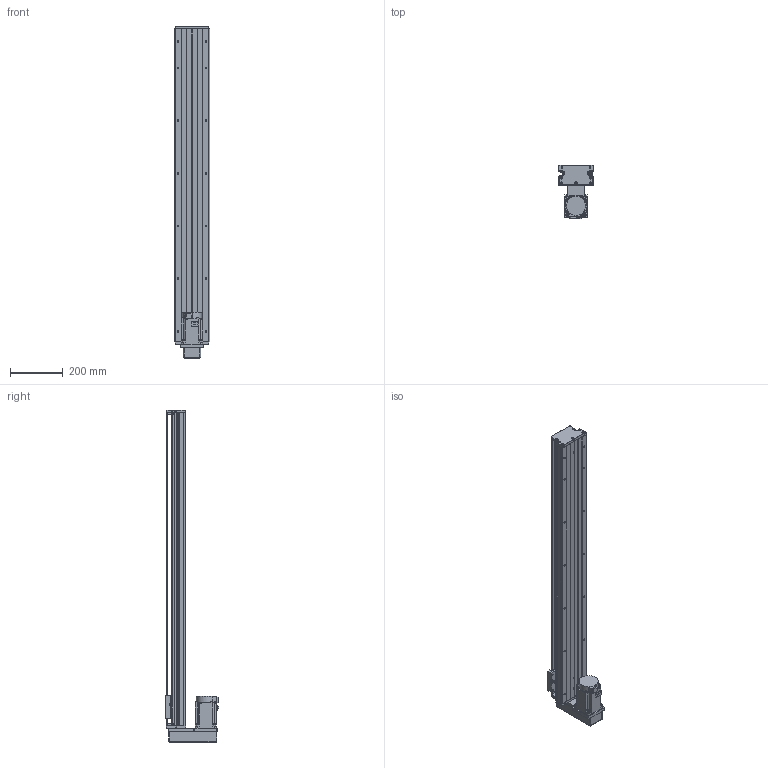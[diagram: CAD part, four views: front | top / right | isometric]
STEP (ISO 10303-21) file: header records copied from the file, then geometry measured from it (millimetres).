
FILE_DESCRIPTION (( 'STEP AP203' ), '1' );
FILE_NAME ('KTH130-1050-BM-M75-C4.step', '2023-06-30T04:36:18', ( '微软用户' ), ( '微软中国' ), 'SwSTEP 2.0', 'SolidWorks 2020', '' );
FILE_SCHEMA (( 'CONFIG_CONTROL_DESIGN' ));
Length unit declared in the file: millimetre
Products named in the file (18): GBT 70.3-M3℅8; CTHA60-017; hg-kn73j_-s100; KTH130-002_KTH130-002; EE_SX911P_R; GTH14-001_1050; CTHA86-015-3_CTHA86-015-4; KTH130-004; CTHA60-016; CTHA86-035; KTH130-005; GBT 70.1-M3℅5; KTH130-1050-BM-M75-C4; GB1155-6X6; GBT77-2000 M3×3; GBT70.1 M5℅16; す晦芛蹟隊 M3℅5; GBT 70.2-M3¡Á5_M3¡Á6
Assembly tree (49 placements, depth 2):
  KTH130-1050-BM-M75-C4
    GTH14-001_1050
    KTH130-002_KTH130-002
    KTH130-004
    KTH130-005
    GB1155-6X6  x2
    GBT70.1 M5℅16  x10
    GBT 70.2-M3¡Á5_M3¡Á6  x4
    CTHA60-017  x3
    EE_SX911P_R  x3
    CTHA60-016  x2
    GBT 70.1-M3℅5  x6
    GBT77-2000 M3×3  x6
    す晦芛蹟隊 M3℅5  x2
    GBT 70.3-M3℅8  x4
    hg-kn73j_-s100
    CTHA86-015-3_CTHA86-015-4
    CTHA86-035
Bounding box: 135 x 202.8 x 1262 mm (x, y, z)
Volume: 7766360 mm3; surface area: 1113887 mm2
Topology: 52 solids, 52 shells, 2212 faces, 5364 edges, 3359 vertices
Faces by surface type: plane 1212, cylinder 646, cone 238, torus 100, sphere 16
Entity records: 40561 total; most frequent: CARTESIAN_POINT 6822, DIRECTION 6697, ORIENTED_EDGE 6232, EDGE_CURVE 3116, AXIS2_PLACEMENT_3D 2352, VECTOR 1993, LINE 1993, VERTEX_POINT 1993
